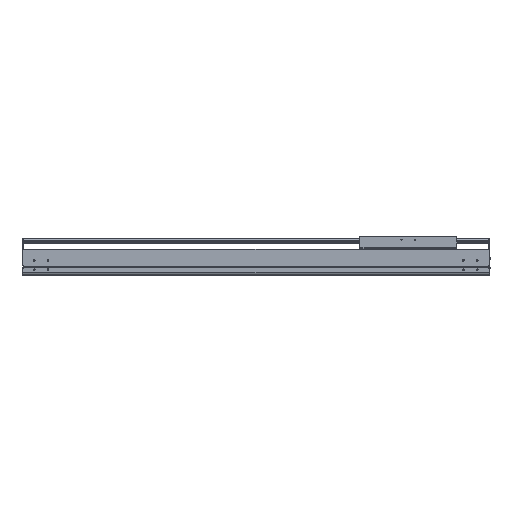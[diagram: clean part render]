
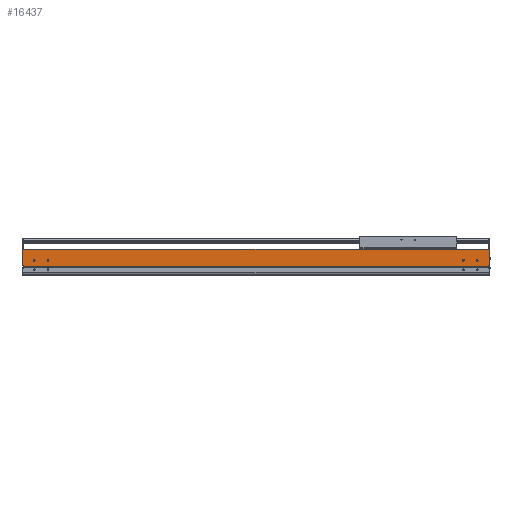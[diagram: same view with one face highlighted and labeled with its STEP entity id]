
A CAD part, top view. The second image highlights one B-rep face of the part: STEP entity #16437.
In plain terms, the highlighted planar face has unit normal (0, 0, 1).
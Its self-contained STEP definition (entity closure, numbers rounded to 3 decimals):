
#702=DIRECTION('',(1.,0.,0.));
#703=VECTOR('',#702,2.);
#704=CARTESIAN_POINT('',(-1686.,34.65,107.));
#705=LINE('',#704,#703);
#706=CARTESIAN_POINT('',(-42.,54.,107.));
#707=DIRECTION('',(0.,0.,-1.));
#708=DIRECTION('',(1.,0.,0.));
#709=AXIS2_PLACEMENT_3D('',#706,#707,#708);
#711=CARTESIAN_POINT('',(-42.,54.,107.));
#712=DIRECTION('',(0.,0.,-1.));
#713=DIRECTION('',(-1.,0.,0.));
#714=AXIS2_PLACEMENT_3D('',#711,#712,#713);
#716=CARTESIAN_POINT('',(-92.,54.,107.));
#717=DIRECTION('',(0.,0.,-1.));
#718=DIRECTION('',(1.,0.,0.));
#719=AXIS2_PLACEMENT_3D('',#716,#717,#718);
#721=CARTESIAN_POINT('',(-92.,54.,107.));
#722=DIRECTION('',(0.,0.,-1.));
#723=DIRECTION('',(-1.,0.,0.));
#724=AXIS2_PLACEMENT_3D('',#721,#722,#723);
#726=CARTESIAN_POINT('',(-1644.,54.,107.));
#727=DIRECTION('',(0.,0.,-1.));
#728=DIRECTION('',(1.,0.,0.));
#729=AXIS2_PLACEMENT_3D('',#726,#727,#728);
#731=CARTESIAN_POINT('',(-1644.,54.,107.));
#732=DIRECTION('',(0.,0.,-1.));
#733=DIRECTION('',(-1.,0.,0.));
#734=AXIS2_PLACEMENT_3D('',#731,#732,#733);
#736=CARTESIAN_POINT('',(-1594.,54.,107.));
#737=DIRECTION('',(0.,0.,-1.));
#738=DIRECTION('',(1.,0.,0.));
#739=AXIS2_PLACEMENT_3D('',#736,#737,#738);
#741=CARTESIAN_POINT('',(-1594.,54.,107.));
#742=DIRECTION('',(0.,0.,-1.));
#743=DIRECTION('',(-1.,0.,0.));
#744=AXIS2_PLACEMENT_3D('',#741,#742,#743);
#746=DIRECTION('',(0.,-1.,0.));
#747=VECTOR('',#746,2.55);
#748=CARTESIAN_POINT('',(-1684.,34.65,107.));
#749=LINE('',#748,#747);
#750=DIRECTION('',(0.,-1.,0.));
#751=VECTOR('',#750,58.85);
#752=CARTESIAN_POINT('',(-1686.,93.5,107.));
#753=LINE('',#752,#751);
#754=DIRECTION('',(0.,1.,0.));
#755=VECTOR('',#754,58.85);
#756=CARTESIAN_POINT('',(2.,34.65,107.));
#757=LINE('',#756,#755);
#758=DIRECTION('',(0.,1.,0.));
#759=VECTOR('',#758,2.55);
#760=CARTESIAN_POINT('',(0.,32.1,107.));
#761=LINE('',#760,#759);
#866=DIRECTION('',(-1.,0.,0.));
#867=VECTOR('',#866,1688.);
#868=CARTESIAN_POINT('',(2.,93.5,107.));
#869=LINE('',#868,#867);
#1718=DIRECTION('',(1.,0.,0.));
#1719=VECTOR('',#1718,2.);
#1720=CARTESIAN_POINT('',(0.,34.65,107.));
#1721=LINE('',#1720,#1719);
#11713=DIRECTION('',(1.,0.,0.));
#11714=VECTOR('',#11713,1684.);
#11715=CARTESIAN_POINT('',(-1684.,32.1,107.));
#11716=LINE('',#11715,#11714);
#12255=CARTESIAN_POINT('',(-1686.,34.65,107.));
#12256=VERTEX_POINT('',#12255);
#12257=CARTESIAN_POINT('',(-1686.,93.5,107.));
#12258=VERTEX_POINT('',#12257);
#12479=CARTESIAN_POINT('',(-1684.,32.1,107.));
#12480=VERTEX_POINT('',#12479);
#12551=CARTESIAN_POINT('',(0.,32.1,107.));
#12552=VERTEX_POINT('',#12551);
#13017=CARTESIAN_POINT('',(-39.5,54.,107.));
#13018=CARTESIAN_POINT('',(-44.5,54.,107.));
#13019=VERTEX_POINT('',#13017);
#13020=VERTEX_POINT('',#13018);
#13021=CARTESIAN_POINT('',(-89.5,54.,107.));
#13022=CARTESIAN_POINT('',(-94.5,54.,107.));
#13023=VERTEX_POINT('',#13021);
#13024=VERTEX_POINT('',#13022);
#13025=CARTESIAN_POINT('',(-1641.5,54.,107.));
#13026=CARTESIAN_POINT('',(-1646.5,54.,107.));
#13027=VERTEX_POINT('',#13025);
#13028=VERTEX_POINT('',#13026);
#13029=CARTESIAN_POINT('',(-1591.5,54.,107.));
#13030=CARTESIAN_POINT('',(-1596.5,54.,107.));
#13031=VERTEX_POINT('',#13029);
#13032=VERTEX_POINT('',#13030);
#14210=CARTESIAN_POINT('',(2.,34.65,107.));
#14211=VERTEX_POINT('',#14210);
#14212=CARTESIAN_POINT('',(2.,93.5,107.));
#14213=VERTEX_POINT('',#14212);
#14432=CARTESIAN_POINT('',(0.,34.65,107.));
#14433=VERTEX_POINT('',#14432);
#14744=CARTESIAN_POINT('',(-1684.,34.65,107.));
#14745=VERTEX_POINT('',#14744);
#16393=CARTESIAN_POINT('',(-842.,62.8,107.));
#16394=DIRECTION('',(0.,0.,1.));
#16395=DIRECTION('',(0.,-1.,0.));
#16396=AXIS2_PLACEMENT_3D('',#16393,#16394,#16395);
#16397=PLANE('',#16396);
#16398=ORIENTED_EDGE('',*,*,#15756,.F.);
#16399=ORIENTED_EDGE('',*,*,#16388,.F.);
#16400=ORIENTED_EDGE('',*,*,#15630,.F.);
#16402=ORIENTED_EDGE('',*,*,#16401,.F.);
#16404=ORIENTED_EDGE('',*,*,#16403,.F.);
#16406=ORIENTED_EDGE('',*,*,#16405,.F.);
#16408=ORIENTED_EDGE('',*,*,#16407,.F.);
#16410=ORIENTED_EDGE('',*,*,#16409,.F.);
#16411=EDGE_LOOP('',(#16398,#16399,#16400,#16402,#16404,#16406,#16408,#16410));
#16412=FACE_OUTER_BOUND('',#16411,.F.);
#16414=ORIENTED_EDGE('',*,*,#16413,.F.);
#16416=ORIENTED_EDGE('',*,*,#16415,.F.);
#16417=EDGE_LOOP('',(#16414,#16416));
#16418=FACE_BOUND('',#16417,.F.);
#16420=ORIENTED_EDGE('',*,*,#16419,.F.);
#16422=ORIENTED_EDGE('',*,*,#16421,.F.);
#16423=EDGE_LOOP('',(#16420,#16422));
#16424=FACE_BOUND('',#16423,.F.);
#16426=ORIENTED_EDGE('',*,*,#16425,.F.);
#16428=ORIENTED_EDGE('',*,*,#16427,.F.);
#16429=EDGE_LOOP('',(#16426,#16428));
#16430=FACE_BOUND('',#16429,.F.);
#16432=ORIENTED_EDGE('',*,*,#16431,.F.);
#16434=ORIENTED_EDGE('',*,*,#16433,.F.);
#16435=EDGE_LOOP('',(#16432,#16434));
#16436=FACE_BOUND('',#16435,.F.);
#16437=ADVANCED_FACE('',(#16412,#16418,#16424,#16430,#16436),#16397,.T.);
#710=CIRCLE('',#709,2.5);
#715=CIRCLE('',#714,2.5);
#720=CIRCLE('',#719,2.5);
#725=CIRCLE('',#724,2.5);
#730=CIRCLE('',#729,2.5);
#735=CIRCLE('',#734,2.5);
#740=CIRCLE('',#739,2.5);
#745=CIRCLE('',#744,2.5);
#15630=EDGE_CURVE('',#12258,#12256,#753,.T.);
#15756=EDGE_CURVE('',#14745,#12480,#749,.T.);
#16388=EDGE_CURVE('',#12256,#14745,#705,.T.);
#16401=EDGE_CURVE('',#14213,#12258,#869,.T.);
#16403=EDGE_CURVE('',#14211,#14213,#757,.T.);
#16405=EDGE_CURVE('',#14433,#14211,#1721,.T.);
#16407=EDGE_CURVE('',#12552,#14433,#761,.T.);
#16409=EDGE_CURVE('',#12480,#12552,#11716,.T.);
#16413=EDGE_CURVE('',#13023,#13024,#720,.T.);
#16415=EDGE_CURVE('',#13024,#13023,#725,.T.);
#16419=EDGE_CURVE('',#13027,#13028,#730,.T.);
#16421=EDGE_CURVE('',#13028,#13027,#735,.T.);
#16425=EDGE_CURVE('',#13031,#13032,#740,.T.);
#16427=EDGE_CURVE('',#13032,#13031,#745,.T.);
#16431=EDGE_CURVE('',#13019,#13020,#710,.T.);
#16433=EDGE_CURVE('',#13020,#13019,#715,.T.);
